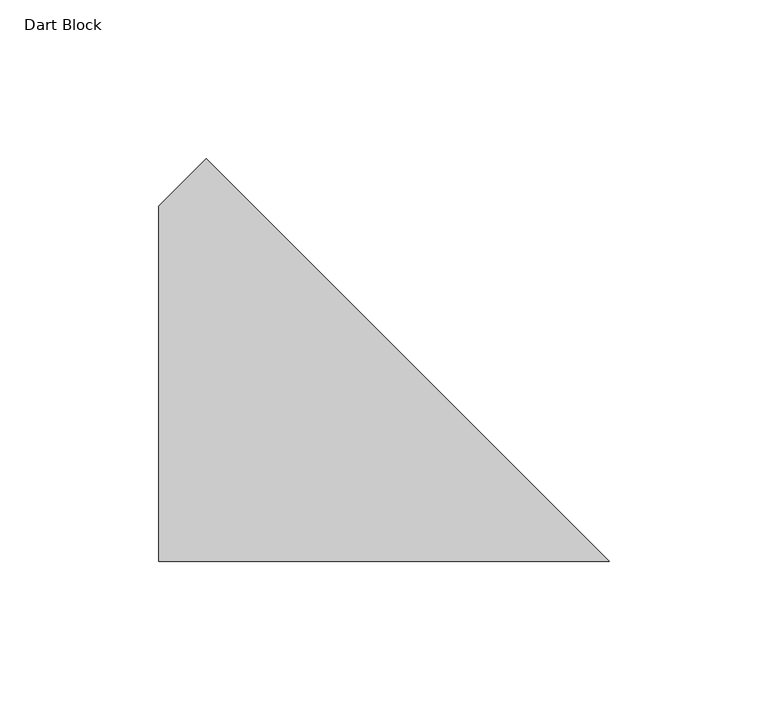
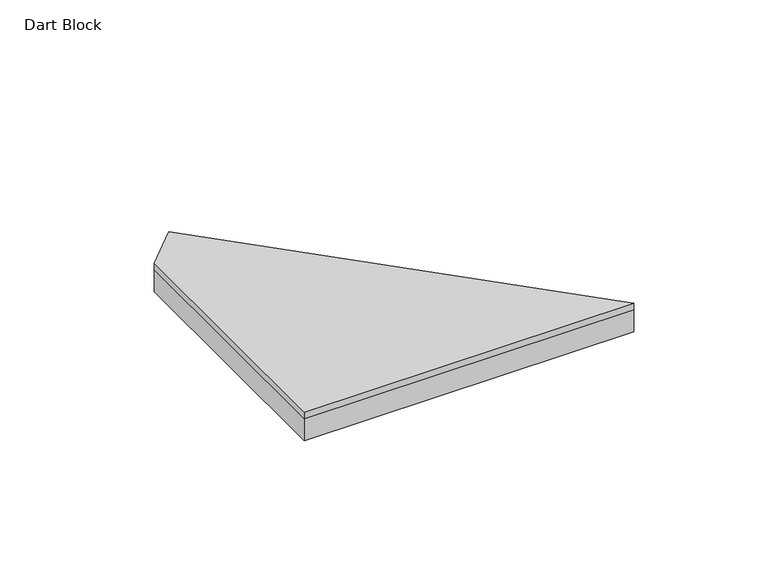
"""IFC4 building model written with IfcOpenShell, lengths in millimetres: proxy geometry, FilzFelt_Dart_Block : Dart Block."""

from ifc_helpers import new_model, si_unit, frame, origin, origin_with_axes, place, context, project, spatial, polyline, outline, extrude, source, transform, mapped, element, save


def dart_block_a8ea429b(model_context):
    return source(origin(), model_context, "Body", "SweptSolid", [
        extrude(outline(polyline([(0.0, 190.5), (127.0, 63.5), (-15.0561328, 63.5), (-15.0561328, 175.4438672), (0.0, 190.5)])), frame((0.0, 0.0, 10.0210937), z_axis=(0.0, 0.0, 1.0), x_axis=(1.0, 0.0, 0.0)), (0.0, 0.0, 1.0), 2.9765625),
        extrude(outline(polyline([(0.0, 190.5), (127.0, 63.5), (-15.0561328, 63.5), (-15.0561328, 175.4438672), (0.0, 190.5)])), origin_with_axes(), (0.0, 0.0, 1.0), 10.0210938),
    ])


if __name__ == "__main__":
    model = new_model("IFC4")
    model_context = context("Model", 3, world=origin())
    ifc_project = project(units=[si_unit("LENGTHUNIT", "METRE", prefix="MILLI")], contexts=[model_context])
    site = spatial("IfcSite", under=ifc_project)
    building = spatial("IfcBuilding", under=site)
    placement = place(None, origin())
    dart_block_shape = dart_block_a8ea429b(model_context)
    element("IfcBuildingElementProxy", 1, Name="FilzFelt_Dart_Block : Dart Block", ObjectType="FilzFelt_Dart_Block : Dart Block", at=placement, inside=building, context=model_context, shape_type="MappedRepresentation", body=[
        mapped(dart_block_shape, transform((0.0, 0.0, 0.0), x_axis=(1.0, 0.0, 0.0), y_axis=(0.0, 1.0, 0.0), z_axis=(0.0, 0.0, 1.0))),
    ])
    save(model, "model.ifc")
